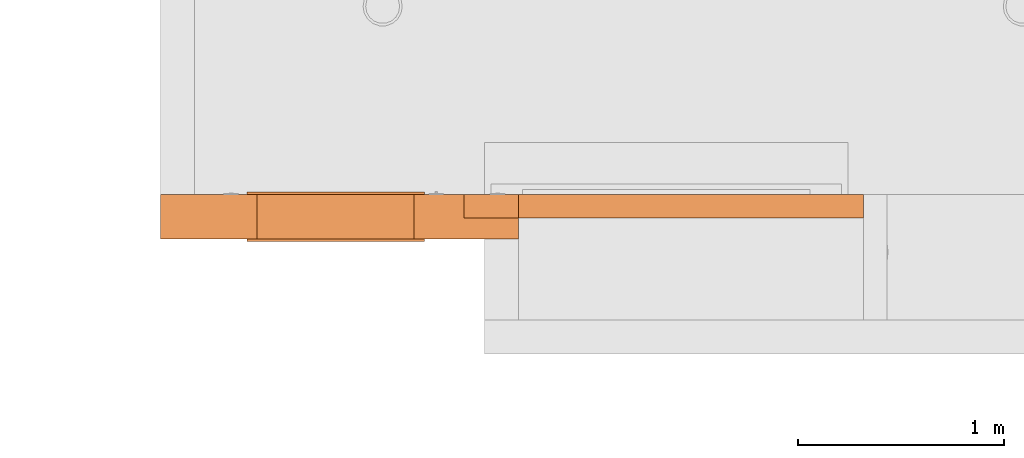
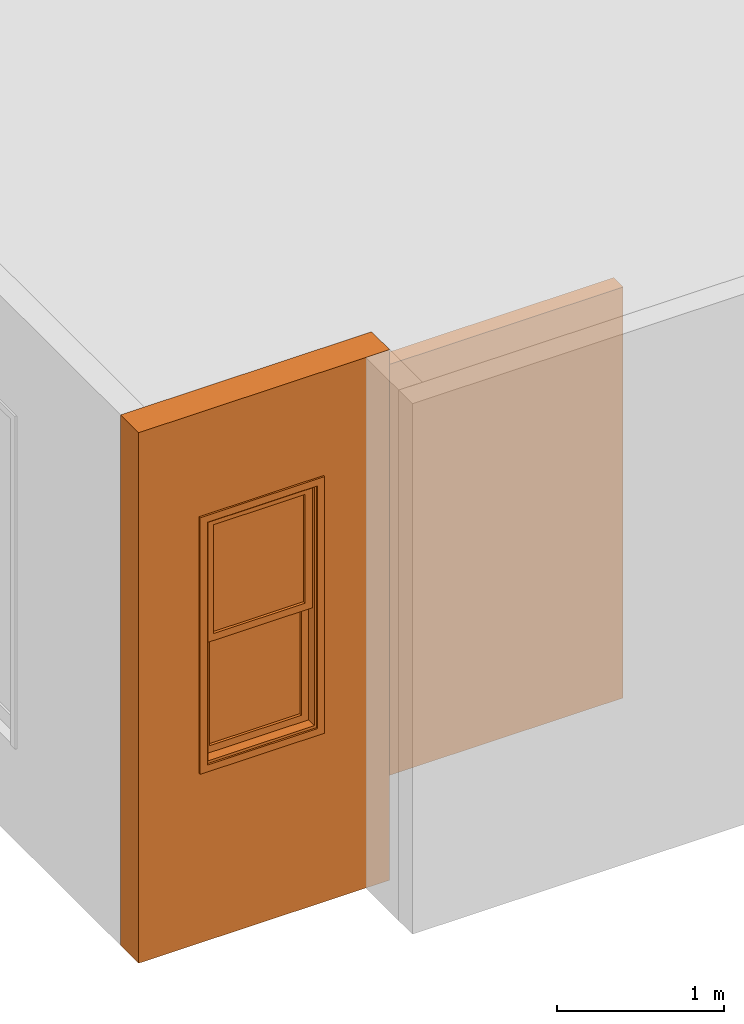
# One storey, part 77 of 103: 3 proxies.
"""IFC2X3 building model written with IfcOpenShell, lengths in inches."""

from ifc_helpers import new_model, entity, si_unit, converted_unit, derived_unit, money_unit, direction, frame, origin_with_axes, place, context, subcontext, project, spatial, faceted_brep, material, type_object, element, save


model = new_model("IFC2X3")

# Units and contexts
model_context = context("Model", 3, precision=0.00039370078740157, world=origin_with_axes(), true_north=direction((0.0, 1.0)))
plan_context = context("Plan", 3, precision=0.00039370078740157, world=origin_with_axes(), true_north=direction((0.0, 1.0)))
body_context = subcontext(model_context, "Body", "Model", "MODEL_VIEW")
ifc_project = project(units=[converted_unit("LENGTHUNIT", "INCH", entity("IfcPositiveLengthMeasure", 0.0254), si_unit("LENGTHUNIT", "METRE"), dimensions=[1, 0, 0, 0, 0, 0, 0]), converted_unit("AREAUNIT", "SQUARE_FOOT", entity("IfcPositiveLengthMeasure", 0.09290304), si_unit("AREAUNIT", "SQUARE_METRE"), dimensions=[2, 0, 0, 0, 0, 0, 0]), si_unit("PLANEANGLEUNIT", "RADIAN"), si_unit("SOLIDANGLEUNIT", "STERADIAN"), money_unit("USD"), converted_unit("TIMEUNIT", "Year", entity("IfcTimeMeasure", 31557600.0), si_unit("TIMEUNIT", "SECOND"), dimensions=[0, 0, 1, 0, 0, 0, 0]), si_unit("MASSUNIT", "GRAM", prefix="KILO"), si_unit("THERMODYNAMICTEMPERATUREUNIT", "DEGREE_CELSIUS"), si_unit("LUMINOUSINTENSITYUNIT", "LUMEN"), si_unit("ENERGYUNIT", "JOULE", prefix="MEGA"), derived_unit("SPECIFICHEATCAPACITYUNIT", [(si_unit("ENERGYUNIT", "JOULE"), 1), (si_unit("MASSUNIT", "GRAM", prefix="KILO"), -1), (si_unit("THERMODYNAMICTEMPERATUREUNIT", "KELVIN"), -1)])], contexts=[model_context, plan_context])

# Site, building, storey
site_placement = place(None, origin_with_axes())
site = spatial("IfcSite", under=ifc_project, at=site_placement, Name="Site", CompositionType="ELEMENT")
building_placement = place(site_placement, origin_with_axes())
building = spatial("IfcBuilding", under=site, at=building_placement, Name="Building", CompositionType="ELEMENT")
storey_placement = place(building_placement, frame((0.0, 0.0, 127.9999999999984), z_axis=(0.0, 0.0, 1.0), x_axis=(1.0, 0.0, 0.0)))
storey = spatial("IfcBuildingStorey", under=building, at=storey_placement, Name="Second Floor", CompositionType="ELEMENT", Elevation=128.0)

# Proxies
ifc_material = material(Name="Generic - Structural")
building_element_proxy_type_1 = type_object("IfcBuildingElementProxyType", Name="Generic - Structural 4 1/2\"", PredefinedType="NOTDEFINED")
proxy_1_placement = place(storey_placement, frame((-65.49999999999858, 134.4999999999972, 0.0), z_axis=(0.0, 0.0, 1.0), x_axis=(-1.0, 0.0, 0.0)))
element("IfcBuildingElementProxy", 1, at=proxy_1_placement, inside=storey, type_object=building_element_proxy_type_1, material=ifc_material, Name="SW - 110", context=body_context, shape_type="Brep", body=[
    faceted_brep([(80.93700787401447, 0.0, 119.9999999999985), (70.4999972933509, 2.357528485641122e-06, 119.9999999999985), (70.4999972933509, 2.357528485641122e-06, 118.4999999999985), (4.499999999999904, 0.0, 118.4999999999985), (4.499999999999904, 0.0, 0.0), (80.93700787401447, 0.0, 0.0), (22.74344509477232, 0.0, 42.99999999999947), (61.74344509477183, 0.0, 42.99999999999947), (61.74344509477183, 0.0, 10.99999999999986), (22.74344509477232, 0.0, 10.99999999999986), (80.93700787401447, 4.499999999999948, 119.9999999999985), (70.4999972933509, 4.499999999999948, 119.9999999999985), (70.4999972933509, 4.499999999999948, 118.4999999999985), (4.499999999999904, 4.499999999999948, 118.4999999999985), (4.499999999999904, 4.499999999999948, 0.0), (80.93700787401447, 4.499999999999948, 0.0), (22.74344509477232, 3.999999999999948, 42.99999999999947), (61.74344509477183, 3.999999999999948, 42.99999999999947), (61.74344509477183, 3.999999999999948, 10.99999999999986), (22.74344509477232, 3.999999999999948, 10.99999999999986)], [[[0, 1, 2, 3, 4, 5], [6, 7, 8, 9]], [[10, 11, 1, 0]], [[12, 2, 1, 11]], [[12, 13, 3, 2]], [[4, 3, 13, 14]], [[5, 4, 14, 15]], [[0, 5, 15, 10]], [[16, 17, 7, 6]], [[17, 18, 8, 7]], [[18, 19, 9, 8]], [[19, 16, 6, 9]], [[13, 12, 11, 10, 15, 14]], [[16, 19, 18, 17]]]),
])
building_element_proxy_type_2 = type_object("IfcBuildingElementProxyType", Name="Generic - Structural 8 1/2\"", PredefinedType="NOTDEFINED")
proxy_2_placement = place(storey_placement, frame((-135.9999999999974, 134.4999999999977, -26.99999999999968), z_axis=(0.0, 0.0, 1.0), x_axis=(-0.9999999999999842, -1.782373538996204e-07, 0.0)))
element("IfcBuildingElementProxy", 2, at=proxy_2_placement, inside=storey, type_object=building_element_proxy_type_2, material=ifc_material, Name="SW - 111", context=body_context, shape_type="Brep", body=[
    faceted_brep([(1.515017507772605e-06, 8.499999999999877, 0.0), (1.515017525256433e-06, 8.499999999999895, 152.9999999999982), (68.50043366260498, 8.499999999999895, 152.9999999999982), (68.50043366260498, 8.499999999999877, 0.0), (49.99999999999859, 8.499999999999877, 50.99999999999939), (49.99999999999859, 8.499999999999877, 120.9999999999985), (19.99999999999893, 8.499999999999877, 120.9999999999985), (19.99999999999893, 8.499999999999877, 50.99999999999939), (0.0, 0.0, 0.0), (0.0, 0.0, 26.99999999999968), (8.020681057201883e-07, 4.50000000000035, 26.99999999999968), (8.020681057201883e-07, 4.50000000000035, 146.9999999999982), (0.0, 0.0, 146.9999999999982), (0.0, 0.0, 152.9999999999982), (68.50043214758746, 0.0, 152.9999999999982), (68.50043214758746, 0.0, 0.0), (49.99999999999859, -1.860264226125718e-06, 50.99999999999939), (49.99999999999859, -1.860264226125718e-06, 120.9999999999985), (19.99999999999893, -1.860264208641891e-06, 120.9999999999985), (19.99999999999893, -1.860264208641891e-06, 50.99999999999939), (10.43700787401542, -1.860264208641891e-06, 146.9999999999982), (10.43700787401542, -1.860264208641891e-06, 26.99999999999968), (10.43700867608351, 4.499998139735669, 26.99999999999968), (10.43700867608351, 4.499998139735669, 146.9999999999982)], [[[0, 1, 2, 3], [4, 5, 6, 7]], [[1, 0, 8, 9, 10, 11, 12, 13]], [[2, 1, 13, 14]], [[15, 3, 2, 14]], [[15, 8, 0, 3]], [[16, 17, 5, 4]], [[17, 18, 6, 5]], [[18, 19, 7, 6]], [[19, 16, 4, 7]], [[14, 13, 12, 20, 21, 9, 8, 15], [16, 19, 18, 17]], [[10, 9, 21, 22]], [[11, 10, 22, 23]], [[20, 12, 11, 23]], [[21, 20, 23, 22]]]),
])
building_element_proxy_type_3 = type_object("IfcBuildingElementProxyType", Name="W Double Hung", PredefinedType="NOTDEFINED")
proxy_3_placement = place(storey_placement, frame((-185.9999999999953, 134.49999108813, 23.9999999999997), z_axis=(0.0, 0.0, 1.0), x_axis=(0.9999999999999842, 1.782373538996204e-07, 0.0)))
element("IfcBuildingElementProxy", 3, at=proxy_3_placement, inside=storey, type_object=building_element_proxy_type_3, Name="WD - 002", context=body_context, shape_type="Brep", body=[
    faceted_brep([(29.99999999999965, -3.999999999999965, 0.0), (0.0, -3.999999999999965, 0.0), (0.0, 0.0, 0.0), (29.99999999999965, 0.0, 0.0), (29.99999999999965, -3.999999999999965, 69.99999999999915), (0.0, -3.999999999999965, 69.99999999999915), (29.49999999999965, -3.999999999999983, 0.5), (0.5000000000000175, -3.999999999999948, 0.5), (0.5000000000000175, -3.999999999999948, 69.49999999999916), (29.49999999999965, -3.999999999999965, 69.49999999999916), (0.0, 0.0, 69.99999999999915), (29.99999999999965, 0.0, 69.99999999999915), (29.49999999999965, 0.0, 0.5), (29.49999999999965, 0.0, 69.49999999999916), (0.4999999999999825, 0.0, 69.49999999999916), (0.4999999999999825, 0.0, 0.5)], [[[0, 1, 2, 3]], [[0, 4, 5, 1], [6, 7, 8, 9]], [[1, 5, 10, 2]], [[3, 2, 10, 11], [12, 13, 14, 15]], [[4, 0, 3, 11]], [[5, 4, 11, 10]], [[7, 6, 12, 15]], [[8, 7, 15, 14]], [[9, 8, 14, 13]], [[6, 9, 13, 12]]]),
    faceted_brep([(31.99999999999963, 0.499999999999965, -1.999999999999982), (31.99999999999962, 0.0, -1.999999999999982), (29.99999999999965, 0.0, 0.0), (29.99999999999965, 0.4999999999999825, 0.0), (31.99999999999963, 0.4999999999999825, 71.9999999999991), (31.99999999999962, 0.0, 71.9999999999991), (29.99999999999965, 0.0, 69.99999999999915), (29.99999999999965, 0.4999999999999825, 69.99999999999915)], [[[0, 1, 2, 3]], [[4, 5, 1, 0]], [[1, 5, 6, 2]], [[3, 2, 6, 7]], [[0, 3, 7, 4]], [[7, 6, 5, 4]]]),
    faceted_brep([(-1.999999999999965, 0.4999999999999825, 71.9999999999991), (-1.999999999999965, 0.0, 71.9999999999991), (0.0, 0.0, 69.99999999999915), (0.0, 0.4999999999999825, 69.99999999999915), (-1.999999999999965, 0.4999999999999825, -1.999999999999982), (-1.999999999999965, 0.0, -1.999999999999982), (0.0, 0.0, 0.0), (0.0, 0.4999999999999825, 0.0)], [[[0, 1, 2, 3]], [[4, 5, 1, 0]], [[1, 5, 6, 2]], [[3, 2, 6, 7]], [[0, 3, 7, 4]], [[7, 6, 5, 4]]]),
    faceted_brep([(-1.999999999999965, 0.4999999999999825, -1.999999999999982), (-1.999999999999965, 0.0, -1.999999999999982), (0.0, 0.0, 0.0), (0.0, 0.4999999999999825, 0.0), (31.99999999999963, 0.499999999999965, -1.999999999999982), (31.99999999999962, 0.0, -1.999999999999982), (29.99999999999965, 0.0, 0.0), (29.99999999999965, 0.4999999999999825, 0.0)], [[[0, 1, 2, 3]], [[4, 5, 1, 0]], [[1, 5, 6, 2]], [[3, 2, 6, 7]], [[0, 3, 7, 4]], [[7, 6, 5, 4]]]),
    faceted_brep([(31.99999999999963, 0.4999999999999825, 71.9999999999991), (31.99999999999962, 0.0, 71.9999999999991), (29.99999999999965, 0.0, 69.99999999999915), (29.99999999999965, 0.4999999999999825, 69.99999999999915), (-1.999999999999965, 0.4999999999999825, 71.9999999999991), (-1.999999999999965, 0.0, 71.9999999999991), (0.0, 0.0, 69.99999999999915), (0.0, 0.4999999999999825, 69.99999999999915)], [[[0, 1, 2, 3]], [[4, 5, 1, 0]], [[1, 5, 6, 2]], [[3, 2, 6, 7]], [[0, 3, 7, 4]], [[7, 6, 5, 4]]]),
    faceted_brep([(31.99999999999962, -8.999999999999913, -1.999999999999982), (29.99999999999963, -8.999999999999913, 0.0), (29.99999999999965, -8.499999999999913, 0.0), (31.99999999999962, -8.499999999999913, -1.999999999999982), (31.99999999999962, -8.999999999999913, 71.9999999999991), (29.99999999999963, -8.999999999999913, 69.99999999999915), (29.99999999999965, -8.499999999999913, 69.99999999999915), (31.99999999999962, -8.499999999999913, 71.9999999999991)], [[[0, 1, 2, 3]], [[0, 4, 5, 1]], [[1, 5, 6, 2]], [[3, 2, 6, 7]], [[4, 0, 3, 7]], [[5, 4, 7, 6]]]),
    faceted_brep([(-1.999999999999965, -8.999999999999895, 71.9999999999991), (0.0, -8.999999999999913, 69.99999999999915), (0.0, -8.499999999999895, 69.99999999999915), (-1.999999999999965, -8.499999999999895, 71.9999999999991), (-1.999999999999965, -8.999999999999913, -1.999999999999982), (0.0, -8.999999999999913, 0.0), (0.0, -8.499999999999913, 0.0), (-1.999999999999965, -8.499999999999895, -1.999999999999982)], [[[0, 1, 2, 3]], [[0, 4, 5, 1]], [[1, 5, 6, 2]], [[3, 2, 6, 7]], [[4, 0, 3, 7]], [[5, 4, 7, 6]]]),
    faceted_brep([(-1.999999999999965, -8.999999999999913, -1.999999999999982), (0.0, -8.999999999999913, 0.0), (0.0, -8.499999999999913, 0.0), (-1.999999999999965, -8.499999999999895, -1.999999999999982), (31.99999999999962, -8.999999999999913, -1.999999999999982), (29.99999999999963, -8.999999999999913, 0.0), (29.99999999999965, -8.499999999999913, 0.0), (31.99999999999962, -8.499999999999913, -1.999999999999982)], [[[0, 1, 2, 3]], [[0, 4, 5, 1]], [[1, 5, 6, 2]], [[3, 2, 6, 7]], [[4, 0, 3, 7]], [[5, 4, 7, 6]]]),
    faceted_brep([(31.99999999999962, -8.999999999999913, 71.9999999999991), (29.99999999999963, -8.999999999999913, 69.99999999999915), (29.99999999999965, -8.499999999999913, 69.99999999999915), (31.99999999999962, -8.499999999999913, 71.9999999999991), (-1.999999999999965, -8.999999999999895, 71.9999999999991), (0.0, -8.999999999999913, 69.99999999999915), (0.0, -8.499999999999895, 69.99999999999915), (-1.999999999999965, -8.499999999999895, 71.9999999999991)], [[[0, 1, 2, 3]], [[0, 4, 5, 1]], [[1, 5, 6, 2]], [[3, 2, 6, 7]], [[4, 0, 3, 7]], [[5, 4, 7, 6]]]),
    faceted_brep([(29.50039370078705, -8.499999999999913, 0.7539370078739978), (29.99999999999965, -8.499999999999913, 0.7539370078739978), (29.99999999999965, -8.49999999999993, 69.49606299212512), (29.50039370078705, -8.49999999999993, 69.49606299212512), (29.50039370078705, -3.999999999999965, 0.7539370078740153), (29.99999999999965, -3.999999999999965, 0.7539370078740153), (29.99999999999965, -3.999999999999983, 69.49606299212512), (29.50039370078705, -3.999999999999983, 69.49606299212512)], [[[0, 1, 2, 3]], [[4, 5, 1, 0]], [[6, 2, 1, 5]], [[3, 2, 6, 7]], [[7, 4, 0, 3]], [[7, 6, 5, 4]]]),
    faceted_brep([(0.4996062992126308, -3.999999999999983, 69.49606299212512), (0.0, -3.999999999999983, 69.49606299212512), (0.0, -8.499999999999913, 69.49606299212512), (0.4996062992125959, -8.499999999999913, 69.49606299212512), (0.4996062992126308, -3.999999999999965, 0.7539370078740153), (0.0, -3.999999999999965, 0.7539370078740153), (0.0, -8.499999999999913, 0.7539370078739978), (0.4996062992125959, -8.499999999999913, 0.7539370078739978)], [[[0, 1, 2, 3]], [[4, 5, 1, 0]], [[5, 6, 2, 1]], [[3, 2, 6, 7]], [[7, 4, 0, 3]], [[7, 6, 5, 4]]]),
    faceted_brep([(0.4996062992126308, -3.999999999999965, 0.7539370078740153), (0.0, -3.999999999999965, 0.7539370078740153), (0.0, -8.499999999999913, 0.7539370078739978), (0.4996062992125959, -8.499999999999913, 0.7539370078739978), (0.4996062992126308, -3.999999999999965, 0.7496062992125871), (29.50039370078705, -3.999999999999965, 0.7496062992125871), (29.50039370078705, -3.999999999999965, 0.7539370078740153), (29.99999999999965, -3.999999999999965, 0.7539370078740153), (29.99999999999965, -3.999999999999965, 0.0), (0.0, -3.999999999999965, 0.0), (0.0, -8.499999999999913, 0.0), (29.50039370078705, -8.499999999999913, 0.7496062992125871), (0.4996062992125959, -8.499999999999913, 0.7496062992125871), (29.99999999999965, -8.499999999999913, 0.0), (29.99999999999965, -8.499999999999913, 0.7539370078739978), (29.50039370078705, -8.499999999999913, 0.7539370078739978)], [[[0, 1, 2, 3]], [[4, 5, 6, 7, 8, 9, 1, 0]], [[9, 10, 2, 1]], [[11, 12, 3, 2, 10, 13, 14, 15]], [[12, 4, 0, 3]], [[11, 5, 4, 12]], [[6, 5, 11, 15]], [[15, 14, 7, 6]], [[7, 14, 13, 8]], [[8, 13, 10, 9]]]),
    faceted_brep([(29.50039370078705, -8.49999999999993, 69.49606299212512), (29.99999999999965, -8.49999999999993, 69.49606299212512), (29.99999999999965, -8.49999999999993, 69.99999999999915), (0.0, -8.499999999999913, 69.99999999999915), (0.0, -8.499999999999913, 69.49606299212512), (0.4996062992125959, -8.499999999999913, 69.49606299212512), (0.4996062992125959, -8.499999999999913, 69.50039370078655), (29.50039370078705, -8.49999999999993, 69.50039370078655), (29.50039370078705, -3.999999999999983, 69.49606299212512), (29.99999999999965, -3.999999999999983, 69.49606299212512), (29.99999999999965, -3.999999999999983, 69.99999999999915), (0.0, -3.999999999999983, 69.99999999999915), (0.0, -3.999999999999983, 69.49606299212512), (0.4996062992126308, -3.999999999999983, 69.49606299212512), (0.4996062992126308, -3.999999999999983, 69.50039370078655), (29.50039370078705, -3.999999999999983, 69.50039370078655)], [[[0, 1, 2, 3, 4, 5, 6, 7]], [[8, 9, 1, 0]], [[10, 2, 1, 9]], [[11, 3, 2, 10]], [[12, 4, 3, 11]], [[5, 4, 12, 13]], [[5, 13, 14, 6]], [[6, 14, 15, 7]], [[7, 15, 8, 0]], [[15, 14, 13, 12, 11, 10, 9, 8]]]),
    faceted_brep([(27.49999999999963, -3.999999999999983, 2.749999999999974), (27.49999999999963, -4.874999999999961, 2.749999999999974), (27.49999999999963, -4.874999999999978, 34.12499999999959), (27.49999999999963, -3.999999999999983, 34.12499999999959), (29.49999999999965, -3.999999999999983, 2.749999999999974), (29.49999999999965, -4.874999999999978, 2.749999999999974), (29.49999999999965, -4.874999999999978, 34.12499999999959), (29.49999999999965, -3.999999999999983, 34.12499999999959)], [[[0, 1, 2, 3]], [[4, 5, 1, 0]], [[1, 5, 6, 2]], [[3, 2, 6, 7]], [[0, 3, 7, 4]], [[7, 6, 5, 4]]]),
    faceted_brep([(0.5000000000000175, -3.999999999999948, 2.749999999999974), (0.5000000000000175, -4.874999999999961, 2.749999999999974), (0.5000000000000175, -4.874999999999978, 34.12499999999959), (0.5000000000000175, -3.999999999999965, 34.12499999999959), (2.499999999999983, -3.999999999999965, 2.749999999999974), (2.499999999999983, -4.874999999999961, 2.749999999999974), (2.499999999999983, -4.874999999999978, 34.12499999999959), (2.499999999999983, -3.999999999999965, 34.12499999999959)], [[[0, 1, 2, 3]], [[4, 5, 1, 0]], [[1, 5, 6, 2]], [[3, 2, 6, 7]], [[0, 3, 7, 4]], [[7, 6, 5, 4]]]),
    faceted_brep([(0.5000000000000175, -3.999999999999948, 0.7499999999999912), (0.5000000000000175, -4.874999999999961, 0.7499999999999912), (0.5000000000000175, -4.874999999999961, 2.749999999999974), (0.5000000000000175, -3.999999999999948, 2.749999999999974), (29.49999999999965, -3.999999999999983, 0.7499999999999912), (29.49999999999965, -4.874999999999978, 0.7499999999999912), (29.49999999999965, -4.874999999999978, 2.749999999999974), (27.49999999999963, -4.874999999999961, 2.749999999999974), (15.99999999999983, -4.874999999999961, 2.749999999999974), (13.99999999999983, -4.874999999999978, 2.749999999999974), (2.499999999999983, -4.874999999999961, 2.749999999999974), (2.499999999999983, -3.999999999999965, 2.749999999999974), (13.99999999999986, -3.999999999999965, 2.749999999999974), (15.99999999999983, -3.999999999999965, 2.749999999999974), (27.49999999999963, -3.999999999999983, 2.749999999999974), (29.49999999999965, -3.999999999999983, 2.749999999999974)], [[[0, 1, 2, 3]], [[4, 5, 1, 0]], [[1, 5, 6, 7, 8, 9, 10, 2]], [[3, 2, 10, 11]], [[0, 3, 11, 12, 13, 14, 15, 4]], [[15, 6, 5, 4]], [[14, 7, 6, 15]], [[13, 8, 7, 14]], [[12, 9, 8, 13]], [[11, 10, 9, 12]]]),
    faceted_brep([(29.49999999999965, -3.999999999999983, 36.12499999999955), (29.49999999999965, -4.874999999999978, 36.12499999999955), (29.49999999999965, -4.874999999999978, 34.12499999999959), (29.49999999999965, -3.999999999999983, 34.12499999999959), (0.5000000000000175, -3.999999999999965, 36.12499999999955), (0.5000000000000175, -4.874999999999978, 36.12499999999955), (0.5000000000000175, -4.874999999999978, 34.12499999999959), (2.499999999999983, -4.874999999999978, 34.12499999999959), (13.99999999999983, -4.874999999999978, 34.12499999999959), (15.99999999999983, -4.874999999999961, 34.12499999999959), (27.49999999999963, -4.874999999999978, 34.12499999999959), (27.49999999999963, -3.999999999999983, 34.12499999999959), (15.99999999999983, -3.999999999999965, 34.12499999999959), (13.99999999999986, -3.999999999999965, 34.12499999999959), (2.499999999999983, -3.999999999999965, 34.12499999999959), (0.5000000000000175, -3.999999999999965, 34.12499999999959)], [[[0, 1, 2, 3]], [[4, 5, 1, 0]], [[1, 5, 6, 7, 8, 9, 10, 2]], [[3, 2, 10, 11]], [[0, 3, 11, 12, 13, 14, 15, 4]], [[15, 6, 5, 4]], [[14, 7, 6, 15]], [[13, 8, 7, 14]], [[12, 9, 8, 13]], [[11, 10, 9, 12]]]),
    faceted_brep([(27.49999999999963, -4.874999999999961, 2.749999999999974), (27.49999999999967, -5.749999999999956, 2.749999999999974), (27.49999999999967, -5.749999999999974, 34.12499999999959), (27.49999999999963, -4.874999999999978, 34.12499999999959), (29.49999999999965, -4.874999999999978, 2.749999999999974), (29.49999999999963, -5.749999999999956, 2.749999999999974), (29.49999999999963, -5.749999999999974, 34.12499999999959), (29.49999999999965, -4.874999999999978, 34.12499999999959)], [[[0, 1, 2, 3]], [[4, 5, 1, 0]], [[1, 5, 6, 2]], [[3, 2, 6, 7]], [[0, 3, 7, 4]], [[7, 6, 5, 4]]]),
    faceted_brep([(0.5000000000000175, -4.874999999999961, 2.749999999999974), (0.4999999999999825, -5.749999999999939, 2.749999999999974), (0.4999999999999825, -5.749999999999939, 34.12499999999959), (0.5000000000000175, -4.874999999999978, 34.12499999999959), (2.499999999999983, -4.874999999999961, 2.749999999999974), (2.499999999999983, -5.749999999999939, 2.749999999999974), (2.499999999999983, -5.749999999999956, 34.12499999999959), (2.499999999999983, -4.874999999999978, 34.12499999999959)], [[[0, 1, 2, 3]], [[4, 5, 1, 0]], [[1, 5, 6, 2]], [[3, 2, 6, 7]], [[0, 3, 7, 4]], [[7, 6, 5, 4]]]),
    faceted_brep([(0.5000000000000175, -4.874999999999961, 0.7499999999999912), (0.4999999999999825, -5.749999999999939, 0.7499999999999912), (0.4999999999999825, -5.749999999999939, 2.749999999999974), (0.5000000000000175, -4.874999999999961, 2.749999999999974), (29.49999999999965, -4.874999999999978, 0.7499999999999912), (29.49999999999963, -5.749999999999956, 0.7499999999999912), (29.49999999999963, -5.749999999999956, 2.749999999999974), (27.49999999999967, -5.749999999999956, 2.749999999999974), (15.99999999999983, -5.749999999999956, 2.749999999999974), (13.99999999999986, -5.749999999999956, 2.749999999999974), (2.499999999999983, -5.749999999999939, 2.749999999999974), (2.499999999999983, -4.874999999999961, 2.749999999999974), (13.99999999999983, -4.874999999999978, 2.749999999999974), (15.99999999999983, -4.874999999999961, 2.749999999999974), (27.49999999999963, -4.874999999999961, 2.749999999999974), (29.49999999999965, -4.874999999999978, 2.749999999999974)], [[[0, 1, 2, 3]], [[4, 5, 1, 0]], [[1, 5, 6, 7, 8, 9, 10, 2]], [[3, 2, 10, 11]], [[0, 3, 11, 12, 13, 14, 15, 4]], [[15, 6, 5, 4]], [[14, 7, 6, 15]], [[13, 8, 7, 14]], [[12, 9, 8, 13]], [[11, 10, 9, 12]]]),
    faceted_brep([(29.49999999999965, -4.874999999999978, 36.12499999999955), (29.49999999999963, -5.749999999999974, 36.12499999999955), (29.49999999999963, -5.749999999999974, 34.12499999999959), (29.49999999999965, -4.874999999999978, 34.12499999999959), (0.5000000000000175, -4.874999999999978, 36.12499999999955), (0.4999999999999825, -5.749999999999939, 36.12499999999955), (0.4999999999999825, -5.749999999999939, 34.12499999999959), (2.499999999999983, -5.749999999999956, 34.12499999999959), (13.99999999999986, -5.749999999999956, 34.12499999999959), (15.99999999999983, -5.749999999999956, 34.12499999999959), (27.49999999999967, -5.749999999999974, 34.12499999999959), (27.49999999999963, -4.874999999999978, 34.12499999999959), (15.99999999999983, -4.874999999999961, 34.12499999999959), (13.99999999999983, -4.874999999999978, 34.12499999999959), (2.499999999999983, -4.874999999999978, 34.12499999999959), (0.5000000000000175, -4.874999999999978, 34.12499999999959)], [[[0, 1, 2, 3]], [[4, 5, 1, 0]], [[1, 5, 6, 7, 8, 9, 10, 2]], [[3, 2, 10, 11]], [[0, 3, 11, 12, 13, 14, 15, 4]], [[15, 6, 5, 4]], [[14, 7, 6, 15]], [[13, 8, 7, 14]], [[12, 9, 8, 13]], [[11, 10, 9, 12]]]),
    faceted_brep([(27.49999999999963, -4.749999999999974, 2.749999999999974), (27.49999999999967, -4.999999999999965, 2.749999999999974), (2.499999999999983, -4.999999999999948, 2.749999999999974), (2.499999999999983, -4.749999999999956, 2.749999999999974), (27.49999999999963, -4.749999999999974, 34.12499999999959), (27.49999999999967, -4.999999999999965, 34.12499999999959), (2.499999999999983, -4.999999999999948, 34.12499999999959), (2.499999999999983, -4.749999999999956, 34.12499999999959)], [[[0, 1, 2, 3]], [[4, 5, 1, 0]], [[1, 5, 6, 2]], [[3, 2, 6, 7]], [[0, 3, 7, 4]], [[7, 6, 5, 4]]]),
    faceted_brep([(27.49999999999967, -5.749999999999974, 36.12499999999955), (27.49999999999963, -6.624999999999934, 36.12499999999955), (27.49999999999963, -6.624999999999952, 67.49999999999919), (27.49999999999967, -5.749999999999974, 67.49999999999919), (29.49999999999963, -5.749999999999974, 36.12499999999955), (29.49999999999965, -6.624999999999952, 36.12499999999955), (29.49999999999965, -6.624999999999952, 67.49999999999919), (29.49999999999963, -5.749999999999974, 67.49999999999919)], [[[0, 1, 2, 3]], [[4, 5, 1, 0]], [[1, 5, 6, 2]], [[3, 2, 6, 7]], [[0, 3, 7, 4]], [[7, 6, 5, 4]]]),
    faceted_brep([(0.4999999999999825, -5.749999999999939, 36.12499999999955), (0.5000000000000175, -6.624999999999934, 36.12499999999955), (0.5000000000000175, -6.624999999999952, 67.49999999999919), (0.4999999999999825, -5.749999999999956, 67.49999999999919), (2.499999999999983, -5.749999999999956, 36.12499999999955), (2.499999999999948, -6.624999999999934, 36.12499999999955), (2.499999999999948, -6.624999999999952, 67.49999999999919), (2.499999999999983, -5.749999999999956, 67.49999999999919)], [[[0, 1, 2, 3]], [[4, 5, 1, 0]], [[1, 5, 6, 2]], [[3, 2, 6, 7]], [[0, 3, 7, 4]], [[7, 6, 5, 4]]]),
    faceted_brep([(0.4999999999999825, -5.749999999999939, 34.12499999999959), (0.5000000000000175, -6.624999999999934, 34.12499999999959), (0.5000000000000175, -6.624999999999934, 36.12499999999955), (0.4999999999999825, -5.749999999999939, 36.12499999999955), (29.49999999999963, -5.749999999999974, 34.12499999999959), (29.49999999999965, -6.624999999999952, 34.12499999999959), (29.49999999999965, -6.624999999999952, 36.12499999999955), (27.49999999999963, -6.624999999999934, 36.12499999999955), (15.99999999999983, -6.624999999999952, 36.12499999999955), (13.99999999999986, -6.624999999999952, 36.12499999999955), (2.499999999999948, -6.624999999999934, 36.12499999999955), (2.499999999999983, -5.749999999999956, 36.12499999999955), (13.99999999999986, -5.749999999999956, 36.12499999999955), (15.99999999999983, -5.749999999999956, 36.12499999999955), (27.49999999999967, -5.749999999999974, 36.12499999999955), (29.49999999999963, -5.749999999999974, 36.12499999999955)], [[[0, 1, 2, 3]], [[4, 5, 1, 0]], [[1, 5, 6, 7, 8, 9, 10, 2]], [[3, 2, 10, 11]], [[0, 3, 11, 12, 13, 14, 15, 4]], [[15, 6, 5, 4]], [[14, 7, 6, 15]], [[13, 8, 7, 14]], [[12, 9, 8, 13]], [[11, 10, 9, 12]]]),
    faceted_brep([(29.49999999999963, -5.749999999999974, 69.49999999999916), (29.49999999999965, -6.624999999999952, 69.49999999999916), (29.49999999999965, -6.624999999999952, 67.49999999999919), (29.49999999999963, -5.749999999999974, 67.49999999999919), (0.4999999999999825, -5.749999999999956, 69.49999999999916), (0.5000000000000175, -6.624999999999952, 69.49999999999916), (0.5000000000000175, -6.624999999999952, 67.49999999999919), (2.499999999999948, -6.624999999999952, 67.49999999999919), (13.99999999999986, -6.624999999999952, 67.49999999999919), (15.99999999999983, -6.624999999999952, 67.49999999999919), (27.49999999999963, -6.624999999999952, 67.49999999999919), (27.49999999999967, -5.749999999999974, 67.49999999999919), (15.99999999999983, -5.749999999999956, 67.49999999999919), (13.99999999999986, -5.749999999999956, 67.49999999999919), (2.499999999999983, -5.749999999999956, 67.49999999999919), (0.4999999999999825, -5.749999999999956, 67.49999999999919)], [[[0, 1, 2, 3]], [[4, 5, 1, 0]], [[1, 5, 6, 7, 8, 9, 10, 2]], [[3, 2, 10, 11]], [[0, 3, 11, 12, 13, 14, 15, 4]], [[15, 6, 5, 4]], [[14, 7, 6, 15]], [[13, 8, 7, 14]], [[12, 9, 8, 13]], [[11, 10, 9, 12]]]),
    faceted_brep([(27.49999999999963, -6.624999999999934, 36.12499999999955), (27.49999999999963, -7.49999999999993, 36.12499999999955), (27.49999999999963, -7.499999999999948, 67.49999999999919), (27.49999999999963, -6.624999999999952, 67.49999999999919), (29.49999999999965, -6.624999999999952, 36.12499999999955), (29.49999999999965, -7.49999999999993, 36.12499999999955), (29.49999999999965, -7.499999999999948, 67.49999999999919), (29.49999999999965, -6.624999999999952, 67.49999999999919)], [[[0, 1, 2, 3]], [[4, 5, 1, 0]], [[1, 5, 6, 2]], [[3, 2, 6, 7]], [[0, 3, 7, 4]], [[7, 6, 5, 4]]]),
    faceted_brep([(0.5000000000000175, -6.624999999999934, 36.12499999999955), (0.5000000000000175, -7.49999999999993, 36.12499999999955), (0.5000000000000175, -7.49999999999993, 67.49999999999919), (0.5000000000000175, -6.624999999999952, 67.49999999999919), (2.499999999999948, -6.624999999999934, 36.12499999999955), (2.499999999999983, -7.499999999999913, 36.12499999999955), (2.499999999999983, -7.49999999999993, 67.49999999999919), (2.499999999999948, -6.624999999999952, 67.49999999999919)], [[[0, 1, 2, 3]], [[4, 5, 1, 0]], [[1, 5, 6, 2]], [[3, 2, 6, 7]], [[0, 3, 7, 4]], [[7, 6, 5, 4]]]),
    faceted_brep([(0.5000000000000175, -6.624999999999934, 34.12499999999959), (0.5000000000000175, -7.49999999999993, 34.12499999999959), (0.5000000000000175, -7.49999999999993, 36.12499999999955), (0.5000000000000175, -6.624999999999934, 36.12499999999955), (29.49999999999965, -6.624999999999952, 34.12499999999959), (29.49999999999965, -7.49999999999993, 34.12499999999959), (29.49999999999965, -7.49999999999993, 36.12499999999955), (27.49999999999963, -7.49999999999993, 36.12499999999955), (15.99999999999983, -7.49999999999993, 36.12499999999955), (13.99999999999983, -7.49999999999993, 36.12499999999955), (2.499999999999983, -7.499999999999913, 36.12499999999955), (2.499999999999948, -6.624999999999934, 36.12499999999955), (13.99999999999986, -6.624999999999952, 36.12499999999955), (15.99999999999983, -6.624999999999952, 36.12499999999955), (27.49999999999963, -6.624999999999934, 36.12499999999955), (29.49999999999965, -6.624999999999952, 36.12499999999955)], [[[0, 1, 2, 3]], [[4, 5, 1, 0]], [[1, 5, 6, 7, 8, 9, 10, 2]], [[3, 2, 10, 11]], [[0, 3, 11, 12, 13, 14, 15, 4]], [[15, 6, 5, 4]], [[14, 7, 6, 15]], [[13, 8, 7, 14]], [[12, 9, 8, 13]], [[11, 10, 9, 12]]]),
    faceted_brep([(29.49999999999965, -6.624999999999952, 69.49999999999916), (29.49999999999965, -7.499999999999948, 69.49999999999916), (29.49999999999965, -7.499999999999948, 67.49999999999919), (29.49999999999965, -6.624999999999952, 67.49999999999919), (0.5000000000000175, -6.624999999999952, 69.49999999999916), (0.5000000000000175, -7.49999999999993, 69.49999999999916), (0.5000000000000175, -7.49999999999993, 67.49999999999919), (2.499999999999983, -7.49999999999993, 67.49999999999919), (13.99999999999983, -7.49999999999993, 67.49999999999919), (15.99999999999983, -7.49999999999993, 67.49999999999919), (27.49999999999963, -7.499999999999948, 67.49999999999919), (27.49999999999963, -6.624999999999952, 67.49999999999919), (15.99999999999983, -6.624999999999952, 67.49999999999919), (13.99999999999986, -6.624999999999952, 67.49999999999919), (2.499999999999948, -6.624999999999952, 67.49999999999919), (0.5000000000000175, -6.624999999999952, 67.49999999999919)], [[[0, 1, 2, 3]], [[4, 5, 1, 0]], [[1, 5, 6, 7, 8, 9, 10, 2]], [[3, 2, 10, 11]], [[0, 3, 11, 12, 13, 14, 15, 4]], [[15, 6, 5, 4]], [[14, 7, 6, 15]], [[13, 8, 7, 14]], [[12, 9, 8, 13]], [[11, 10, 9, 12]]]),
    faceted_brep([(27.49999999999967, -6.499999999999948, 36.12499999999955), (27.49999999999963, -6.749999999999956, 36.12499999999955), (2.499999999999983, -6.749999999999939, 36.12499999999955), (2.499999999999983, -6.499999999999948, 36.12499999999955), (27.49999999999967, -6.499999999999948, 67.49999999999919), (27.49999999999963, -6.749999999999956, 67.49999999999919), (2.499999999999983, -6.749999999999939, 67.49999999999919), (2.499999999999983, -6.499999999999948, 67.49999999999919)], [[[0, 1, 2, 3]], [[4, 5, 1, 0]], [[1, 5, 6, 2]], [[3, 2, 6, 7]], [[0, 3, 7, 4]], [[7, 6, 5, 4]]]),
])

save(model, "model.ifc")
